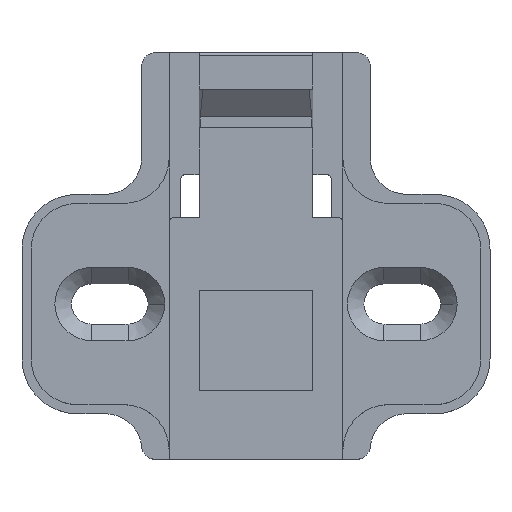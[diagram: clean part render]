
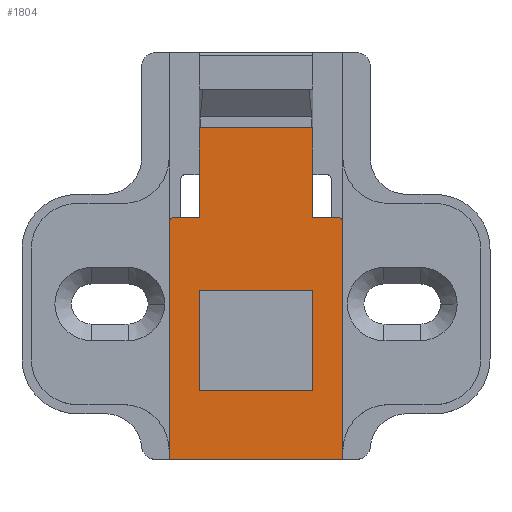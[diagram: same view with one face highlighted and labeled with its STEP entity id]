
A CAD part, top view. The second image highlights one B-rep face of the part: STEP entity #1804.
In plain terms, the highlighted planar face has unit normal (0, 0, 1).
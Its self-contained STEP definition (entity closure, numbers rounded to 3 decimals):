
#49 = CARTESIAN_POINT ( 'NONE',  ( -6.2, -9.5, 7. ) ) ;
#64 = VERTEX_POINT ( 'NONE', #241 ) ;
#100 = VERTEX_POINT ( 'NONE', #1921 ) ;
#102 = EDGE_LOOP ( 'NONE', ( #1065, #1783, #1828, #1334 ) ) ;
#136 = PLANE ( 'NONE',  #198 ) ;
#168 = VECTOR ( 'NONE', #2963, 1000. ) ;
#194 = DIRECTION ( 'NONE',  ( -1., 0., 0. ) ) ;
#198 = AXIS2_PLACEMENT_3D ( 'NONE', #345, #1817, #365 ) ;
#215 = VERTEX_POINT ( 'NONE', #356 ) ;
#241 = CARTESIAN_POINT ( 'NONE',  ( 6.2, 19.27, 7. ) ) ;
#249 = ORIENTED_EDGE ( 'NONE', *, *, #440, .T. ) ;
#255 = VERTEX_POINT ( 'NONE', #631 ) ;
#279 = CARTESIAN_POINT ( 'NONE',  ( 9.5, 8.95, 7. ) ) ;
#297 = VERTEX_POINT ( 'NONE', #1103 ) ;
#306 = VECTOR ( 'NONE', #1722, 1000. ) ;
#345 = CARTESIAN_POINT ( 'NONE',  ( -9.5, 27.5, 7. ) ) ;
#353 = EDGE_CURVE ( 'NONE', #364, #64, #1379, .T. ) ;
#356 = CARTESIAN_POINT ( 'NONE',  ( 6.2, 1.5, 7. ) ) ;
#364 = VERTEX_POINT ( 'NONE', #1900 ) ;
#365 = DIRECTION ( 'NONE',  ( 0., -1., 0. ) ) ;
#369 = VECTOR ( 'NONE', #3099, 1000. ) ;
#401 = EDGE_CURVE ( 'NONE', #2532, #1756, #2498, .T. ) ;
#415 = EDGE_CURVE ( 'NONE', #1381, #100, #2988, .T. ) ;
#433 = VECTOR ( 'NONE', #1971, 1000. ) ;
#440 = EDGE_CURVE ( 'NONE', #100, #297, #513, .T. ) ;
#491 = CARTESIAN_POINT ( 'NONE',  ( -6.2, 1.5, 7. ) ) ;
#513 = LINE ( 'NONE', #1729, #433 ) ;
#522 = DIRECTION ( 'NONE',  ( 1., 0., 0. ) ) ;
#631 = CARTESIAN_POINT ( 'NONE',  ( 9.5, -17., 7. ) ) ;
#654 = ORIENTED_EDGE ( 'NONE', *, *, #2315, .T. ) ;
#668 = ORIENTED_EDGE ( 'NONE', *, *, #401, .T. ) ;
#673 = CARTESIAN_POINT ( 'NONE',  ( -8.4, 9.45, 7. ) ) ;
#707 = VERTEX_POINT ( 'NONE', #2903 ) ;
#717 = EDGE_CURVE ( 'NONE', #2382, #2459, #1529, .T. ) ;
#761 = CARTESIAN_POINT ( 'NONE',  ( 9., 8.95, 7. ) ) ;
#766 = EDGE_CURVE ( 'NONE', #2016, #707, #2019, .T. ) ;
#785 = ORIENTED_EDGE ( 'NONE', *, *, #1292, .T. ) ;
#830 = DIRECTION ( 'NONE',  ( -1., 0., 0. ) ) ;
#831 = AXIS2_PLACEMENT_3D ( 'NONE', #761, #2203, #522 ) ;
#879 = LINE ( 'NONE', #2752, #1132 ) ;
#913 = LINE ( 'NONE', #2414, #2117 ) ;
#999 = CARTESIAN_POINT ( 'NONE',  ( -6.2, 19.27, 7. ) ) ;
#1020 = ORIENTED_EDGE ( 'NONE', *, *, #415, .T. ) ;
#1032 = CARTESIAN_POINT ( 'NONE',  ( -9.5, 8.95, 7. ) ) ;
#1065 = ORIENTED_EDGE ( 'NONE', *, *, #2804, .F. ) ;
#1103 = CARTESIAN_POINT ( 'NONE',  ( 6.2, 9.45, 7. ) ) ;
#1132 = VECTOR ( 'NONE', #3000, 1000. ) ;
#1133 = CARTESIAN_POINT ( 'NONE',  ( 5.2, -9.5, 7. ) ) ;
#1146 = DIRECTION ( 'NONE',  ( 1., 0., 0. ) ) ;
#1169 = DIRECTION ( 'NONE',  ( 1., 0., 0. ) ) ;
#1201 = CARTESIAN_POINT ( 'NONE',  ( 6.2, -9.5, 7. ) ) ;
#1245 = EDGE_CURVE ( 'NONE', #2382, #215, #2082, .T. ) ;
#1276 = CARTESIAN_POINT ( 'NONE',  ( -9.5, 8.95, 7. ) ) ;
#1280 = DIRECTION ( 'NONE',  ( 0., -1., 0. ) ) ;
#1292 = EDGE_CURVE ( 'NONE', #255, #1381, #1368, .T. ) ;
#1334 = ORIENTED_EDGE ( 'NONE', *, *, #717, .T. ) ;
#1368 = LINE ( 'NONE', #2476, #1935 ) ;
#1377 = ORIENTED_EDGE ( 'NONE', *, *, #2449, .F. ) ;
#1379 = LINE ( 'NONE', #2607, #2022 ) ;
#1381 = VERTEX_POINT ( 'NONE', #279 ) ;
#1388 = CARTESIAN_POINT ( 'NONE',  ( -9., 8.95, 7. ) ) ;
#1430 = EDGE_CURVE ( 'NONE', #64, #297, #913, .T. ) ;
#1446 = VERTEX_POINT ( 'NONE', #491 ) ;
#1529 = LINE ( 'NONE', #1133, #2717 ) ;
#1590 = EDGE_CURVE ( 'NONE', #707, #2532, #2303, .T. ) ;
#1657 = CARTESIAN_POINT ( 'NONE',  ( -6.2, 9.45, 7. ) ) ;
#1674 = CARTESIAN_POINT ( 'NONE',  ( -9.5, -17., 7. ) ) ;
#1710 = VECTOR ( 'NONE', #1923, 1000. ) ;
#1722 = DIRECTION ( 'NONE',  ( 0., 1., 0. ) ) ;
#1729 = CARTESIAN_POINT ( 'NONE',  ( -8.4, 9.45, 7. ) ) ;
#1756 = VERTEX_POINT ( 'NONE', #2727 ) ;
#1776 = DIRECTION ( 'NONE',  ( 0., 1., 0. ) ) ;
#1783 = ORIENTED_EDGE ( 'NONE', *, *, #1800, .T. ) ;
#1785 = FACE_BOUND ( 'NONE', #102, .T. ) ;
#1800 = EDGE_CURVE ( 'NONE', #1446, #215, #879, .T. ) ;
#1804 = ADVANCED_FACE ( 'NONE', ( #3049, #1785 ), #136, .F. ) ;
#1817 = DIRECTION ( 'NONE',  ( 0., 0., -1. ) ) ;
#1828 = ORIENTED_EDGE ( 'NONE', *, *, #1245, .F. ) ;
#1843 = AXIS2_PLACEMENT_3D ( 'NONE', #1388, #2815, #1146 ) ;
#1848 = EDGE_LOOP ( 'NONE', ( #654, #785, #1020, #249, #1865, #2551, #1377, #2123, #2818, #668 ) ) ;
#1865 = ORIENTED_EDGE ( 'NONE', *, *, #1430, .F. ) ;
#1876 = VECTOR ( 'NONE', #1280, 1000. ) ;
#1900 = CARTESIAN_POINT ( 'NONE',  ( -6.2, 19.27, 7. ) ) ;
#1921 = CARTESIAN_POINT ( 'NONE',  ( 9., 9.45, 7. ) ) ;
#1923 = DIRECTION ( 'NONE',  ( 1., 0., 0. ) ) ;
#1935 = VECTOR ( 'NONE', #1776, 1000. ) ;
#1971 = DIRECTION ( 'NONE',  ( -1., 0., 0. ) ) ;
#2016 = VERTEX_POINT ( 'NONE', #1657 ) ;
#2019 = LINE ( 'NONE', #673, #2635 ) ;
#2022 = VECTOR ( 'NONE', #1169, 1000. ) ;
#2082 = LINE ( 'NONE', #2496, #168 ) ;
#2117 = VECTOR ( 'NONE', #2184, 1000. ) ;
#2123 = ORIENTED_EDGE ( 'NONE', *, *, #766, .T. ) ;
#2184 = DIRECTION ( 'NONE',  ( 0., -1., 0. ) ) ;
#2203 = DIRECTION ( 'NONE',  ( 0., 0., 1. ) ) ;
#2294 = LINE ( 'NONE', #2851, #369 ) ;
#2303 = CIRCLE ( 'NONE', #1843, 0.5 ) ;
#2315 = EDGE_CURVE ( 'NONE', #1756, #255, #2892, .T. ) ;
#2382 = VERTEX_POINT ( 'NONE', #1201 ) ;
#2414 = CARTESIAN_POINT ( 'NONE',  ( 6.2, 9.45, 7. ) ) ;
#2449 = EDGE_CURVE ( 'NONE', #2016, #364, #2767, .T. ) ;
#2459 = VERTEX_POINT ( 'NONE', #49 ) ;
#2476 = CARTESIAN_POINT ( 'NONE',  ( 9.5, -17., 7. ) ) ;
#2496 = CARTESIAN_POINT ( 'NONE',  ( 6.2, 5., 7. ) ) ;
#2498 = LINE ( 'NONE', #1032, #1876 ) ;
#2532 = VERTEX_POINT ( 'NONE', #1276 ) ;
#2551 = ORIENTED_EDGE ( 'NONE', *, *, #353, .F. ) ;
#2607 = CARTESIAN_POINT ( 'NONE',  ( -6.2, 19.27, 7. ) ) ;
#2635 = VECTOR ( 'NONE', #830, 1000. ) ;
#2717 = VECTOR ( 'NONE', #194, 1000. ) ;
#2727 = CARTESIAN_POINT ( 'NONE',  ( -9.5, -17., 7. ) ) ;
#2752 = CARTESIAN_POINT ( 'NONE',  ( 6.2, 1.5, 7. ) ) ;
#2767 = LINE ( 'NONE', #999, #306 ) ;
#2804 = EDGE_CURVE ( 'NONE', #1446, #2459, #2294, .T. ) ;
#2815 = DIRECTION ( 'NONE',  ( 0., 0., 1. ) ) ;
#2818 = ORIENTED_EDGE ( 'NONE', *, *, #1590, .T. ) ;
#2851 = CARTESIAN_POINT ( 'NONE',  ( -6.2, 5., 7. ) ) ;
#2892 = LINE ( 'NONE', #1674, #1710 ) ;
#2903 = CARTESIAN_POINT ( 'NONE',  ( -9., 9.45, 7. ) ) ;
#2963 = DIRECTION ( 'NONE',  ( 0., 1., 0. ) ) ;
#2988 = CIRCLE ( 'NONE', #831, 0.5 ) ;
#3000 = DIRECTION ( 'NONE',  ( 1., 0., 0. ) ) ;
#3049 = FACE_OUTER_BOUND ( 'NONE', #1848, .T. ) ;
#3099 = DIRECTION ( 'NONE',  ( 0., -1., 0. ) ) ;
